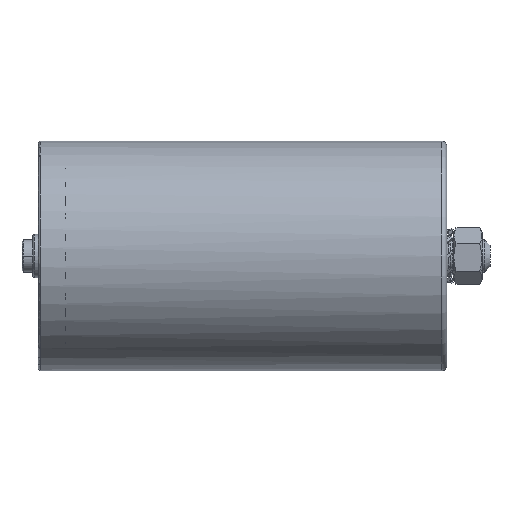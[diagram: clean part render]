
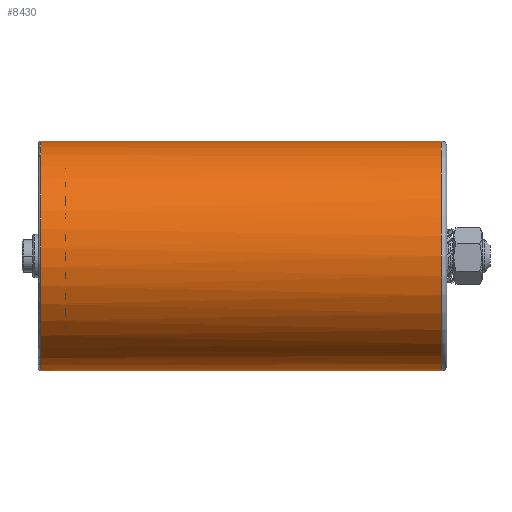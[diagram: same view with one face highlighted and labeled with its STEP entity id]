
A CAD part, left-side view. The second image highlights one B-rep face of the part: STEP entity #8430.
In plain terms, the highlighted cylindrical face has radius 42.5 mm (diameter 85 mm), a partial arc.
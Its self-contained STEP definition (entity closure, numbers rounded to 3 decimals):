
#15 = DIRECTION ( 'NONE',  ( 0., -1., 0. ) ) ;
#240 = VERTEX_POINT ( 'NONE', #3604 ) ;
#688 = CARTESIAN_POINT ( 'NONE',  ( 0., 150., 0. ) ) ;
#757 = VERTEX_POINT ( 'NONE', #7161 ) ;
#1479 = CARTESIAN_POINT ( 'NONE',  ( -25.343, 150., -34.117 ) ) ;
#1597 = ORIENTED_EDGE ( 'NONE', *, *, #7965, .T. ) ;
#2211 = VECTOR ( 'NONE', #6830, 1000. ) ;
#2550 = AXIS2_PLACEMENT_3D ( 'NONE', #7750, #4043, #4655 ) ;
#2776 = EDGE_CURVE ( 'NONE', #2797, #757, #7269, .T. ) ;
#2797 = VERTEX_POINT ( 'NONE', #1479 ) ;
#2855 = DIRECTION ( 'NONE',  ( 0.596, 0., 0.803 ) ) ;
#2857 = CIRCLE ( 'NONE', #7874, 42.5 ) ;
#2937 = CARTESIAN_POINT ( 'NONE',  ( 0., 2., 0. ) ) ;
#3016 = LINE ( 'NONE', #6759, #7699 ) ;
#3303 = FACE_OUTER_BOUND ( 'NONE', #3814, .T. ) ;
#3604 = CARTESIAN_POINT ( 'NONE',  ( 0., 2., -42.5 ) ) ;
#3708 = LINE ( 'NONE', #7556, #2211 ) ;
#3814 = EDGE_LOOP ( 'NONE', ( #4346, #1597, #7623, #7485, #6613 ) ) ;
#4043 = DIRECTION ( 'NONE',  ( 0., -1., 0. ) ) ;
#4113 = AXIS2_PLACEMENT_3D ( 'NONE', #688, #9581, #2855 ) ;
#4315 = DIRECTION ( 'NONE',  ( 0., 0., -1. ) ) ;
#4346 = ORIENTED_EDGE ( 'NONE', *, *, #7643, .F. ) ;
#4603 = CYLINDRICAL_SURFACE ( 'NONE', #2550, 42.5 ) ;
#4655 = DIRECTION ( 'NONE',  ( 0., 0., -1. ) ) ;
#4657 = EDGE_CURVE ( 'NONE', #240, #7279, #2857, .T. ) ;
#4717 = EDGE_CURVE ( 'NONE', #757, #240, #3708, .T. ) ;
#4762 = CARTESIAN_POINT ( 'NONE',  ( 0., 150., 42.5 ) ) ;
#5037 = AXIS2_PLACEMENT_3D ( 'NONE', #9530, #5163, #9481 ) ;
#5163 = DIRECTION ( 'NONE',  ( 0., -1., 0. ) ) ;
#6613 = ORIENTED_EDGE ( 'NONE', *, *, #4657, .T. ) ;
#6759 = CARTESIAN_POINT ( 'NONE',  ( 0., 0., 42.5 ) ) ;
#6830 = DIRECTION ( 'NONE',  ( 0., -1., 0. ) ) ;
#7161 = CARTESIAN_POINT ( 'NONE',  ( 0., 150., -42.5 ) ) ;
#7268 = DIRECTION ( 'NONE',  ( 0., 1., 0. ) ) ;
#7269 = CIRCLE ( 'NONE', #4113, 42.5 ) ;
#7279 = VERTEX_POINT ( 'NONE', #7661 ) ;
#7485 = ORIENTED_EDGE ( 'NONE', *, *, #4717, .T. ) ;
#7556 = CARTESIAN_POINT ( 'NONE',  ( 0., 0., -42.5 ) ) ;
#7623 = ORIENTED_EDGE ( 'NONE', *, *, #2776, .T. ) ;
#7643 = EDGE_CURVE ( 'NONE', #8121, #7279, #3016, .T. ) ;
#7661 = CARTESIAN_POINT ( 'NONE',  ( 0., 2., 42.5 ) ) ;
#7699 = VECTOR ( 'NONE', #15, 1000. ) ;
#7750 = CARTESIAN_POINT ( 'NONE',  ( 0., 0., 0. ) ) ;
#7874 = AXIS2_PLACEMENT_3D ( 'NONE', #2937, #7268, #4315 ) ;
#7965 = EDGE_CURVE ( 'NONE', #8121, #2797, #8007, .T. ) ;
#8007 = CIRCLE ( 'NONE', #5037, 42.5 ) ;
#8121 = VERTEX_POINT ( 'NONE', #4762 ) ;
#8430 = ADVANCED_FACE ( 'NONE', ( #3303 ), #4603, .T. ) ;
#9481 = DIRECTION ( 'NONE',  ( 0.596, 0., 0.803 ) ) ;
#9530 = CARTESIAN_POINT ( 'NONE',  ( 0., 150., 0. ) ) ;
#9581 = DIRECTION ( 'NONE',  ( 0., -1., 0. ) ) ;
